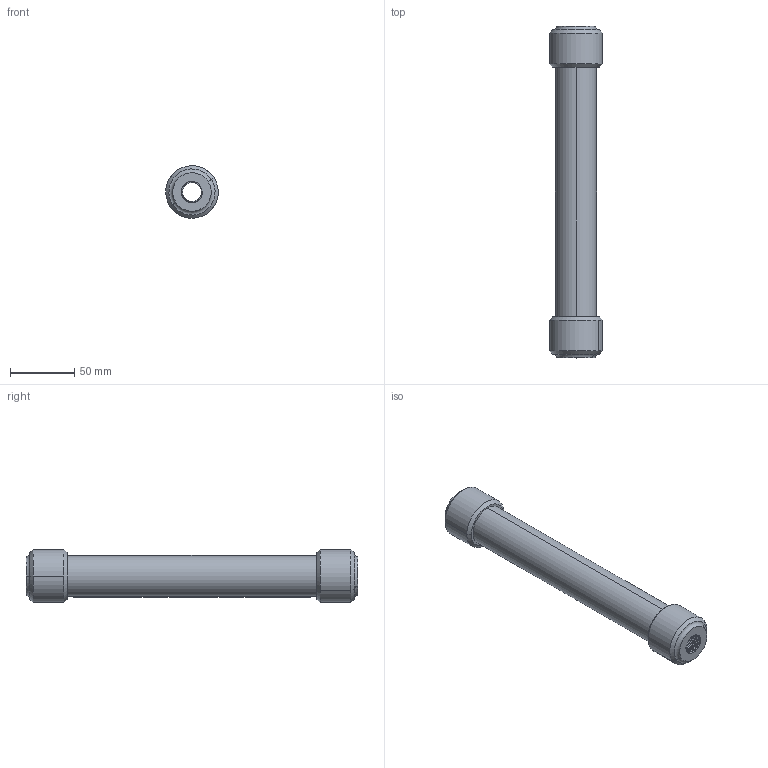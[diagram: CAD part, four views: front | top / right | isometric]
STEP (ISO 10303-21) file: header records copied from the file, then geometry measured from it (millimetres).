
FILE_DESCRIPTION (( 'STEP AP214' ), '1' );
FILE_NAME ('0.05LTR-C-11-00 V2.7.STEP', '2025-03-24T10:33:44', ( '' ), ( '' ), 'SwSTEP 2.0', 'SolidWorks 2024', '' );
FILE_SCHEMA (( 'AUTOMOTIVE_DESIGN' ));
Length unit declared in the file: millimetre
Products named in the file (1): 0.05LTR-C-11-00 V2.7
Bounding box: 41 x 259 x 41 mm (x, y, z)
Volume: 99837.6 mm3; surface area: 64409.6 mm2
Topology: 4 solids, 4 shells, 1446 faces, 3975 edges, 2646 vertices
Faces by surface type: plane 843, bspline 398, cylinder 193, cone 8, torus 4
Entity records: 93055 total; most frequent: CARTESIAN_POINT 42952, ORIENTED_EDGE 7950, DIRECTION 5495, EDGE_CURVE 3975, LINE 2765, VECTOR 2765, VERTEX_POINT 2646, EDGE_LOOP 1561
